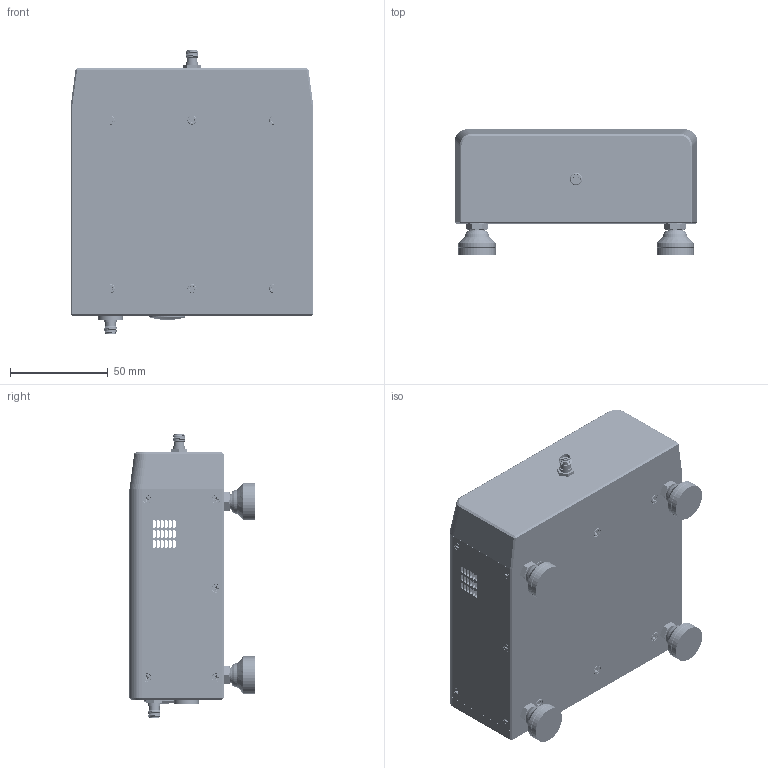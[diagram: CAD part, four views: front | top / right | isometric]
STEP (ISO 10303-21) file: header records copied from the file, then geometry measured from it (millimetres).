
FILE_DESCRIPTION (( 'STEP AP214' ), '1' );
FILE_NAME ('TB-SC-2.STEP', '2025-01-27T22:56:43', ( '' ), ( '' ), 'SwSTEP 2.0', 'SolidWorks 2021', '' );
FILE_SCHEMA (( 'AUTOMOTIVE_DESIGN' ));
Length unit declared in the file: inch
Products named in the file (1): TB-SC-2
Bounding box: 124.32 x 64.14 x 146.02 mm (x, y, z)
Volume: 270712.2 mm3; surface area: 150084.9 mm2
Topology: 52 solids, 52 shells, 3448 faces, 9310 edges, 5991 vertices
Faces by surface type: cylinder 1631, plane 1047, cone 532, bspline 191, torus 28, sphere 19
Entity records: 216250 total; most frequent: CARTESIAN_POINT 91936, ORIENTED_EDGE 18392, DIRECTION 14415, EDGE_CURVE 9196, VERTEX_POINT 5966, AXIS2_PLACEMENT_3D 5342, EDGE_LOOP 3766, LINE 3731
